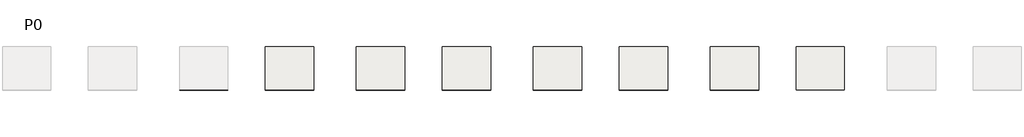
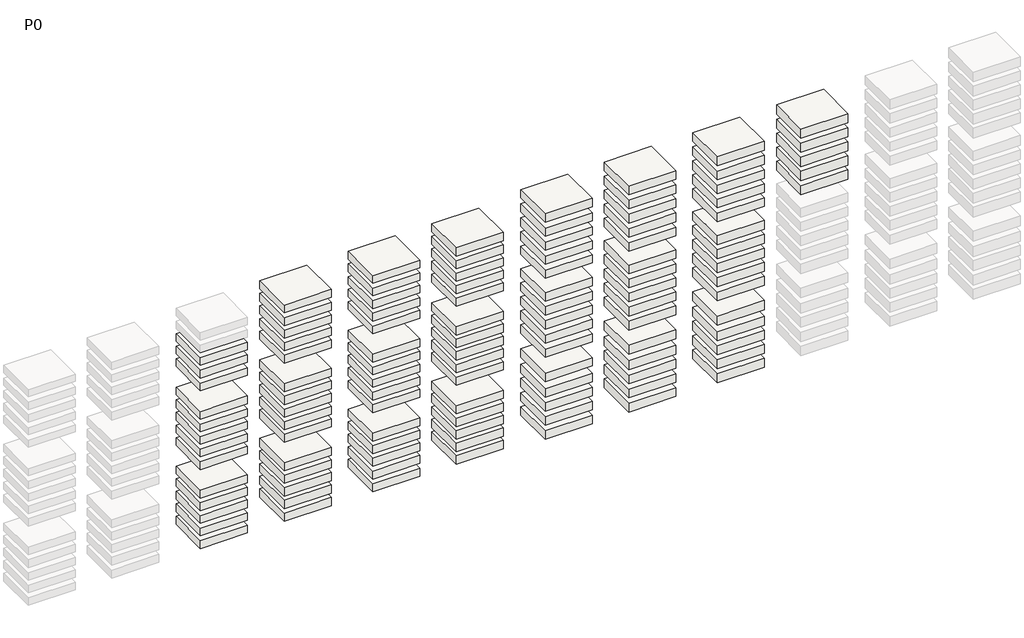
# One storey, part 10 of 11: 108 slabs.
"""IFC4 building model written with IfcOpenShell, lengths in millimetres."""

from ifc_helpers import new_model, si_unit, frame, origin, place, context, project, spatial, polyline, outline, extrude, element, save

model = new_model("IFC4")

# Units and contexts
model_context = context("Model", 3, world=origin())
ifc_project = project(units=[si_unit("LENGTHUNIT", "METRE", prefix="MILLI")], contexts=[model_context])

# Site, building, storey
site = spatial("IfcSite", under=ifc_project)
building = spatial("IfcBuilding", under=site)
storey = spatial("IfcBuildingStorey", under=building, Name="P0", Elevation=0.0)

# Slabs
placement = place(None, origin())
element("IfcSlab", 1, ObjectType="NNEH40 H5", at=placement, inside=storey, context=model_context, shape_type="SweptSolid", body=[
    extrude(outline(polyline([(295510.1564071, 1686.0689128), (295510.1564071, -1013.9310872), (292510.1564071, -1013.9310872), (292510.1564071, 1686.0689128), (295510.1564071, 1686.0689128)])), frame((0.0, 0.0, -9229.5323192), z_axis=(0.0, 0.0, 1.0), x_axis=(1.0, 0.0, 0.0)), (0.0, 0.0, 1.0), 508.0),
])
element("IfcSlab", 2, ObjectType="NNEH40 H5", at=placement, inside=storey, context=model_context, shape_type="SweptSolid", body=[
    extrude(outline(polyline([(295510.1564071, 1686.0689128), (295510.1564071, -1013.9310872), (292510.1564071, -1013.9310872), (292510.1564071, 1686.0689128), (295510.1564071, 1686.0689128)])), frame((0.0, 0.0, -10079.5323192), z_axis=(0.0, 0.0, 1.0), x_axis=(1.0, 0.0, 0.0)), (0.0, 0.0, 1.0), 508.0),
])
element("IfcSlab", 3, ObjectType="NNEH40 H5", at=placement, inside=storey, context=model_context, shape_type="SweptSolid", body=[
    extrude(outline(polyline([(295510.1564071, 1686.0689128), (295510.1564071, -1013.9310872), (292510.1564071, -1013.9310872), (292510.1564071, 1686.0689128), (295510.1564071, 1686.0689128)])), frame((0.0, 0.0, -10929.5324008), z_axis=(0.0, 0.0, 1.0), x_axis=(1.0, 0.0, 0.0)), (0.0, 0.0, 1.0), 508.0),
])
element("IfcSlab", 4, ObjectType="NNEH40 H6", at=placement, inside=storey, context=model_context, shape_type="SweptSolid", body=[
    extrude(outline(polyline([(295510.1564071, 1686.0689128), (295510.1564071, -1013.9310872), (292510.1564071, -1013.9310872), (292510.1564071, 1686.0689128), (295510.1564071, 1686.0689128)])), frame((0.0, 0.0, -12859.5322376), z_axis=(0.0, 0.0, 1.0), x_axis=(1.0, 0.0, 0.0)), (0.0, 0.0, 1.0), 518.0),
])
element("IfcSlab", 5, ObjectType="NNEH40 H6", at=placement, inside=storey, context=model_context, shape_type="SweptSolid", body=[
    extrude(outline(polyline([(295510.1564071, 1686.0689128), (295510.1564071, -1013.9310872), (292510.1564071, -1013.9310872), (292510.1564071, 1686.0689128), (295510.1564071, 1686.0689128)])), frame((0.0, 0.0, -13709.5322376), z_axis=(0.0, 0.0, 1.0), x_axis=(1.0, 0.0, 0.0)), (0.0, 0.0, 1.0), 518.0),
])
element("IfcSlab", 6, ObjectType="NNEH40 H6", at=placement, inside=storey, context=model_context, shape_type="SweptSolid", body=[
    extrude(outline(polyline([(295510.1564071, 1686.0689128), (295510.1564071, -1013.9310872), (292510.1564071, -1013.9310872), (292510.1564071, 1686.0689128), (295510.1564071, 1686.0689128)])), frame((0.0, 0.0, -14559.5322376), z_axis=(0.0, 0.0, 1.0), x_axis=(1.0, 0.0, 0.0)), (0.0, 0.0, 1.0), 518.0),
])
element("IfcSlab", 7, ObjectType="NNEH40 H6", at=placement, inside=storey, context=model_context, shape_type="SweptSolid", body=[
    extrude(outline(polyline([(295510.1564071, 1686.0689128), (295510.1564071, -1013.9310872), (292510.1564071, -1013.9310872), (292510.1564071, 1686.0689128), (295510.1564071, 1686.0689128)])), frame((0.0, 0.0, -15409.5322376), z_axis=(0.0, 0.0, 1.0), x_axis=(1.0, 0.0, 0.0)), (0.0, 0.0, 1.0), 518.0),
])
element("IfcSlab", 8, ObjectType="NNEH40 H6", at=placement, inside=storey, context=model_context, shape_type="SweptSolid", body=[
    extrude(outline(polyline([(295510.1564071, 1686.0689128), (295510.1564071, -1013.9310872), (292510.1564071, -1013.9310872), (292510.1564071, 1686.0689128), (295510.1564071, 1686.0689128)])), frame((0.0, 0.0, -16259.5322376), z_axis=(0.0, 0.0, 1.0), x_axis=(1.0, 0.0, 0.0)), (0.0, 0.0, 1.0), 518.0),
])
element("IfcSlab", 9, ObjectType="NNEH40 H7", at=placement, inside=storey, context=model_context, shape_type="SweptSolid", body=[
    extrude(outline(polyline([(295510.1564071, 1686.0689128), (295510.1564071, -1013.9310872), (292510.1564071, -1013.9310872), (292510.1564071, 1686.0689128), (295510.1564071, 1686.0689128)])), frame((0.0, 0.0, -18189.5323192), z_axis=(0.0, 0.0, 1.0), x_axis=(1.0, 0.0, 0.0)), (0.0, 0.0, 1.0), 528.0),
])
element("IfcSlab", 10, ObjectType="NNEH40 H7", at=placement, inside=storey, context=model_context, shape_type="SweptSolid", body=[
    extrude(outline(polyline([(295510.1564071, 1686.0689128), (295510.1564071, -1013.9310872), (292510.1564071, -1013.9310872), (292510.1564071, 1686.0689128), (295510.1564071, 1686.0689128)])), frame((0.0, 0.0, -19039.5323192), z_axis=(0.0, 0.0, 1.0), x_axis=(1.0, 0.0, 0.0)), (0.0, 0.0, 1.0), 528.0),
])
element("IfcSlab", 11, ObjectType="NNEH40 H7", at=placement, inside=storey, context=model_context, shape_type="SweptSolid", body=[
    extrude(outline(polyline([(295510.1564071, 1686.0689128), (295510.1564071, -1013.9310872), (292510.1564071, -1013.9310872), (292510.1564071, 1686.0689128), (295510.1564071, 1686.0689128)])), frame((0.0, 0.0, -19889.5323192), z_axis=(0.0, 0.0, 1.0), x_axis=(1.0, 0.0, 0.0)), (0.0, 0.0, 1.0), 528.0),
])
element("IfcSlab", 12, ObjectType="NNEH40 H7", at=placement, inside=storey, context=model_context, shape_type="SweptSolid", body=[
    extrude(outline(polyline([(295510.1564071, 1686.0689128), (295510.1564071, -1013.9310872), (292510.1564071, -1013.9310872), (292510.1564071, 1686.0689128), (295510.1564071, 1686.0689128)])), frame((0.0, 0.0, -20739.5323192), z_axis=(0.0, 0.0, 1.0), x_axis=(1.0, 0.0, 0.0)), (0.0, 0.0, 1.0), 528.0),
])
element("IfcSlab", 13, ObjectType="NNEH40 H7", at=placement, inside=storey, context=model_context, shape_type="SweptSolid", body=[
    extrude(outline(polyline([(295510.1564071, 1686.0689128), (295510.1564071, -1013.9310872), (292510.1564071, -1013.9310872), (292510.1564071, 1686.0689128), (295510.1564071, 1686.0689128)])), frame((0.0, 0.0, -21589.5323192), z_axis=(0.0, 0.0, 1.0), x_axis=(1.0, 0.0, 0.0)), (0.0, 0.0, 1.0), 528.0),
])
element("IfcSlab", 14, ObjectType="NNEH40 H8", at=placement, inside=storey, context=model_context, shape_type="SweptSolid", body=[
    extrude(outline(polyline([(300850.1564071, 1686.0689128), (300850.1564071, -1013.9310872), (297850.1564071, -1013.9310872), (297850.1564071, 1686.0689128), (300850.1564071, 1686.0689128)])), frame((0.0, 0.0, -7559.5323192), z_axis=(0.0, 0.0, 1.0), x_axis=(1.0, 0.0, 0.0)), (0.0, 0.0, 1.0), 538.0),
])
element("IfcSlab", 15, ObjectType="NNEH40 H8", at=placement, inside=storey, context=model_context, shape_type="SweptSolid", body=[
    extrude(outline(polyline([(300850.1564071, 1686.0689128), (300850.1564071, -1013.9310872), (297850.1564071, -1013.9310872), (297850.1564071, 1686.0689128), (300850.1564071, 1686.0689128)])), frame((0.0, 0.0, -8409.5323192), z_axis=(0.0, 0.0, 1.0), x_axis=(1.0, 0.0, 0.0)), (0.0, 0.0, 1.0), 538.0),
])
element("IfcSlab", 16, ObjectType="NNEH40 H8", at=placement, inside=storey, context=model_context, shape_type="SweptSolid", body=[
    extrude(outline(polyline([(300850.1564071, 1686.0689128), (300850.1564071, -1013.9310872), (297850.1564071, -1013.9310872), (297850.1564071, 1686.0689128), (300850.1564071, 1686.0689128)])), frame((0.0, 0.0, -9259.5323192), z_axis=(0.0, 0.0, 1.0), x_axis=(1.0, 0.0, 0.0)), (0.0, 0.0, 1.0), 538.0),
])
element("IfcSlab", 17, ObjectType="NNEH40 H8", at=placement, inside=storey, context=model_context, shape_type="SweptSolid", body=[
    extrude(outline(polyline([(300850.1564071, 1686.0689128), (300850.1564071, -1013.9310872), (297850.1564071, -1013.9310872), (297850.1564071, 1686.0689128), (300850.1564071, 1686.0689128)])), frame((0.0, 0.0, -10109.5323192), z_axis=(0.0, 0.0, 1.0), x_axis=(1.0, 0.0, 0.0)), (0.0, 0.0, 1.0), 538.0),
])
element("IfcSlab", 18, ObjectType="NNEH40 H8", at=placement, inside=storey, context=model_context, shape_type="SweptSolid", body=[
    extrude(outline(polyline([(300850.1564071, 1686.0689128), (300850.1564071, -1013.9310872), (297850.1564071, -1013.9310872), (297850.1564071, 1686.0689128), (300850.1564071, 1686.0689128)])), frame((0.0, 0.0, -10959.5324008), z_axis=(0.0, 0.0, 1.0), x_axis=(1.0, 0.0, 0.0)), (0.0, 0.0, 1.0), 538.0),
])
element("IfcSlab", 19, ObjectType="NNEH40 H9", at=placement, inside=storey, context=model_context, shape_type="SweptSolid", body=[
    extrude(outline(polyline([(300850.1564071, 1686.0689128), (300850.1564071, -1013.9310872), (297850.1564071, -1013.9310872), (297850.1564071, 1686.0689128), (300850.1564071, 1686.0689128)])), frame((0.0, 0.0, -12889.5322376), z_axis=(0.0, 0.0, 1.0), x_axis=(1.0, 0.0, 0.0)), (0.0, 0.0, 1.0), 548.0),
])
element("IfcSlab", 20, ObjectType="NNEH40 H9", at=placement, inside=storey, context=model_context, shape_type="SweptSolid", body=[
    extrude(outline(polyline([(300850.1564071, 1686.0689128), (300850.1564071, -1013.9310872), (297850.1564071, -1013.9310872), (297850.1564071, 1686.0689128), (300850.1564071, 1686.0689128)])), frame((0.0, 0.0, -13739.5322376), z_axis=(0.0, 0.0, 1.0), x_axis=(1.0, 0.0, 0.0)), (0.0, 0.0, 1.0), 548.0),
])
element("IfcSlab", 21, ObjectType="NNEH40 H9", at=placement, inside=storey, context=model_context, shape_type="SweptSolid", body=[
    extrude(outline(polyline([(300850.1564071, 1686.0689128), (300850.1564071, -1013.9310872), (297850.1564071, -1013.9310872), (297850.1564071, 1686.0689128), (300850.1564071, 1686.0689128)])), frame((0.0, 0.0, -14589.5322376), z_axis=(0.0, 0.0, 1.0), x_axis=(1.0, 0.0, 0.0)), (0.0, 0.0, 1.0), 548.0),
])
element("IfcSlab", 22, ObjectType="NNEH40 H9", at=placement, inside=storey, context=model_context, shape_type="SweptSolid", body=[
    extrude(outline(polyline([(300850.1564071, 1686.0689128), (300850.1564071, -1013.9310872), (297850.1564071, -1013.9310872), (297850.1564071, 1686.0689128), (300850.1564071, 1686.0689128)])), frame((0.0, 0.0, -15439.5322376), z_axis=(0.0, 0.0, 1.0), x_axis=(1.0, 0.0, 0.0)), (0.0, 0.0, 1.0), 548.0),
])
element("IfcSlab", 23, ObjectType="NNEH40 H9", at=placement, inside=storey, context=model_context, shape_type="SweptSolid", body=[
    extrude(outline(polyline([(300850.1564071, 1686.0689128), (300850.1564071, -1013.9310872), (297850.1564071, -1013.9310872), (297850.1564071, 1686.0689128), (300850.1564071, 1686.0689128)])), frame((0.0, 0.0, -16289.5322376), z_axis=(0.0, 0.0, 1.0), x_axis=(1.0, 0.0, 0.0)), (0.0, 0.0, 1.0), 548.0),
])
element("IfcSlab", 24, ObjectType="NNEH40 H10", at=placement, inside=storey, context=model_context, shape_type="SweptSolid", body=[
    extrude(outline(polyline([(300850.1564071, 1686.0689128), (300850.1564071, -1013.9310872), (297850.1564071, -1013.9310872), (297850.1564071, 1686.0689128), (300850.1564071, 1686.0689128)])), frame((0.0, 0.0, -18219.5323192), z_axis=(0.0, 0.0, 1.0), x_axis=(1.0, 0.0, 0.0)), (0.0, 0.0, 1.0), 558.0),
])
element("IfcSlab", 25, ObjectType="NNEH40 H10", at=placement, inside=storey, context=model_context, shape_type="SweptSolid", body=[
    extrude(outline(polyline([(300850.1564071, 1686.0689128), (300850.1564071, -1013.9310872), (297850.1564071, -1013.9310872), (297850.1564071, 1686.0689128), (300850.1564071, 1686.0689128)])), frame((0.0, 0.0, -19069.5323192), z_axis=(0.0, 0.0, 1.0), x_axis=(1.0, 0.0, 0.0)), (0.0, 0.0, 1.0), 558.0),
])
element("IfcSlab", 26, ObjectType="NNEH40 H10", at=placement, inside=storey, context=model_context, shape_type="SweptSolid", body=[
    extrude(outline(polyline([(300850.1564071, 1686.0689128), (300850.1564071, -1013.9310872), (297850.1564071, -1013.9310872), (297850.1564071, 1686.0689128), (300850.1564071, 1686.0689128)])), frame((0.0, 0.0, -19919.5323192), z_axis=(0.0, 0.0, 1.0), x_axis=(1.0, 0.0, 0.0)), (0.0, 0.0, 1.0), 558.0),
])
element("IfcSlab", 27, ObjectType="NNEH40 H10", at=placement, inside=storey, context=model_context, shape_type="SweptSolid", body=[
    extrude(outline(polyline([(300850.1564071, 1686.0689128), (300850.1564071, -1013.9310872), (297850.1564071, -1013.9310872), (297850.1564071, 1686.0689128), (300850.1564071, 1686.0689128)])), frame((0.0, 0.0, -20769.5323192), z_axis=(0.0, 0.0, 1.0), x_axis=(1.0, 0.0, 0.0)), (0.0, 0.0, 1.0), 558.0),
])
element("IfcSlab", 28, ObjectType="NNEH40 H10", at=placement, inside=storey, context=model_context, shape_type="SweptSolid", body=[
    extrude(outline(polyline([(300850.1564071, 1686.0689128), (300850.1564071, -1013.9310872), (297850.1564071, -1013.9310872), (297850.1564071, 1686.0689128), (300850.1564071, 1686.0689128)])), frame((0.0, 0.0, -21619.5323192), z_axis=(0.0, 0.0, 1.0), x_axis=(1.0, 0.0, 0.0)), (0.0, 0.0, 1.0), 558.0),
])
element("IfcSlab", 29, ObjectType="NNEH41 H5", at=placement, inside=storey, context=model_context, shape_type="SweptSolid", body=[
    extrude(outline(polyline([(306510.1564071, 1686.0689128), (306510.1564071, -1013.9310872), (303510.1564071, -1013.9310872), (303510.1564071, 1686.0689128), (306510.1564071, 1686.0689128)])), frame((0.0, 0.0, -7539.5324008), z_axis=(0.0, 0.0, 1.0), x_axis=(1.0, 0.0, 0.0)), (0.0, 0.0, 1.0), 518.0),
])
element("IfcSlab", 30, ObjectType="NNEH41 H5", at=placement, inside=storey, context=model_context, shape_type="SweptSolid", body=[
    extrude(outline(polyline([(306510.1564071, 1686.0689128), (306510.1564071, -1013.9310872), (303510.1564071, -1013.9310872), (303510.1564071, 1686.0689128), (306510.1564071, 1686.0689128)])), frame((0.0, 0.0, -8389.5323192), z_axis=(0.0, 0.0, 1.0), x_axis=(1.0, 0.0, 0.0)), (0.0, 0.0, 1.0), 518.0),
])
element("IfcSlab", 31, ObjectType="NNEH41 H5", at=placement, inside=storey, context=model_context, shape_type="SweptSolid", body=[
    extrude(outline(polyline([(306510.1564071, 1686.0689128), (306510.1564071, -1013.9310872), (303510.1564071, -1013.9310872), (303510.1564071, 1686.0689128), (306510.1564071, 1686.0689128)])), frame((0.0, 0.0, -9239.5323192), z_axis=(0.0, 0.0, 1.0), x_axis=(1.0, 0.0, 0.0)), (0.0, 0.0, 1.0), 518.0),
])
element("IfcSlab", 32, ObjectType="NNEH41 H5", at=placement, inside=storey, context=model_context, shape_type="SweptSolid", body=[
    extrude(outline(polyline([(306510.1564071, 1686.0689128), (306510.1564071, -1013.9310872), (303510.1564071, -1013.9310872), (303510.1564071, 1686.0689128), (306510.1564071, 1686.0689128)])), frame((0.0, 0.0, -10089.5323192), z_axis=(0.0, 0.0, 1.0), x_axis=(1.0, 0.0, 0.0)), (0.0, 0.0, 1.0), 518.0),
])
element("IfcSlab", 33, ObjectType="NNEH41 H5", at=placement, inside=storey, context=model_context, shape_type="SweptSolid", body=[
    extrude(outline(polyline([(306510.1564071, 1686.0689128), (306510.1564071, -1013.9310872), (303510.1564071, -1013.9310872), (303510.1564071, 1686.0689128), (306510.1564071, 1686.0689128)])), frame((0.0, 0.0, -10939.5324008), z_axis=(0.0, 0.0, 1.0), x_axis=(1.0, 0.0, 0.0)), (0.0, 0.0, 1.0), 518.0),
])
element("IfcSlab", 34, ObjectType="NNEH41 H6", at=placement, inside=storey, context=model_context, shape_type="SweptSolid", body=[
    extrude(outline(polyline([(306510.1564071, 1686.0689128), (306510.1564071, -1013.9310872), (303510.1564071, -1013.9310872), (303510.1564071, 1686.0689128), (306510.1564071, 1686.0689128)])), frame((0.0, 0.0, -12869.5322376), z_axis=(0.0, 0.0, 1.0), x_axis=(1.0, 0.0, 0.0)), (0.0, 0.0, 1.0), 528.0),
])
element("IfcSlab", 35, ObjectType="NNEH41 H6", at=placement, inside=storey, context=model_context, shape_type="SweptSolid", body=[
    extrude(outline(polyline([(306510.1564071, 1686.0689128), (306510.1564071, -1013.9310872), (303510.1564071, -1013.9310872), (303510.1564071, 1686.0689128), (306510.1564071, 1686.0689128)])), frame((0.0, 0.0, -13719.5322376), z_axis=(0.0, 0.0, 1.0), x_axis=(1.0, 0.0, 0.0)), (0.0, 0.0, 1.0), 528.0),
])
element("IfcSlab", 36, ObjectType="NNEH41 H6", at=placement, inside=storey, context=model_context, shape_type="SweptSolid", body=[
    extrude(outline(polyline([(306510.1564071, 1686.0689128), (306510.1564071, -1013.9310872), (303510.1564071, -1013.9310872), (303510.1564071, 1686.0689128), (306510.1564071, 1686.0689128)])), frame((0.0, 0.0, -14569.5322376), z_axis=(0.0, 0.0, 1.0), x_axis=(1.0, 0.0, 0.0)), (0.0, 0.0, 1.0), 528.0),
])
element("IfcSlab", 37, ObjectType="NNEH41 H6", at=placement, inside=storey, context=model_context, shape_type="SweptSolid", body=[
    extrude(outline(polyline([(306510.1564071, 1686.0689128), (306510.1564071, -1013.9310872), (303510.1564071, -1013.9310872), (303510.1564071, 1686.0689128), (306510.1564071, 1686.0689128)])), frame((0.0, 0.0, -15419.5322376), z_axis=(0.0, 0.0, 1.0), x_axis=(1.0, 0.0, 0.0)), (0.0, 0.0, 1.0), 528.0),
])
element("IfcSlab", 38, ObjectType="NNEH41 H6", at=placement, inside=storey, context=model_context, shape_type="SweptSolid", body=[
    extrude(outline(polyline([(306510.1564071, 1686.0689128), (306510.1564071, -1013.9310872), (303510.1564071, -1013.9310872), (303510.1564071, 1686.0689128), (306510.1564071, 1686.0689128)])), frame((0.0, 0.0, -16269.5322376), z_axis=(0.0, 0.0, 1.0), x_axis=(1.0, 0.0, 0.0)), (0.0, 0.0, 1.0), 528.0),
])
element("IfcSlab", 39, ObjectType="NNEH41 H7", at=placement, inside=storey, context=model_context, shape_type="SweptSolid", body=[
    extrude(outline(polyline([(306510.1564071, 1686.0689128), (306510.1564071, -1013.9310872), (303510.1564071, -1013.9310872), (303510.1564071, 1686.0689128), (306510.1564071, 1686.0689128)])), frame((0.0, 0.0, -18199.5323192), z_axis=(0.0, 0.0, 1.0), x_axis=(1.0, 0.0, 0.0)), (0.0, 0.0, 1.0), 538.0),
])
element("IfcSlab", 40, ObjectType="NNEH41 H7", at=placement, inside=storey, context=model_context, shape_type="SweptSolid", body=[
    extrude(outline(polyline([(306510.1564071, 1686.0689128), (306510.1564071, -1013.9310872), (303510.1564071, -1013.9310872), (303510.1564071, 1686.0689128), (306510.1564071, 1686.0689128)])), frame((0.0, 0.0, -19049.5323192), z_axis=(0.0, 0.0, 1.0), x_axis=(1.0, 0.0, 0.0)), (0.0, 0.0, 1.0), 538.0),
])
element("IfcSlab", 41, ObjectType="NNEH41 H7", at=placement, inside=storey, context=model_context, shape_type="SweptSolid", body=[
    extrude(outline(polyline([(306510.1564071, 1686.0689128), (306510.1564071, -1013.9310872), (303510.1564071, -1013.9310872), (303510.1564071, 1686.0689128), (306510.1564071, 1686.0689128)])), frame((0.0, 0.0, -19899.5323192), z_axis=(0.0, 0.0, 1.0), x_axis=(1.0, 0.0, 0.0)), (0.0, 0.0, 1.0), 538.0),
])
element("IfcSlab", 42, ObjectType="NNEH41 H7", at=placement, inside=storey, context=model_context, shape_type="SweptSolid", body=[
    extrude(outline(polyline([(306510.1564071, 1686.0689128), (306510.1564071, -1013.9310872), (303510.1564071, -1013.9310872), (303510.1564071, 1686.0689128), (306510.1564071, 1686.0689128)])), frame((0.0, 0.0, -20749.5323192), z_axis=(0.0, 0.0, 1.0), x_axis=(1.0, 0.0, 0.0)), (0.0, 0.0, 1.0), 538.0),
])
element("IfcSlab", 43, ObjectType="NNEH41 H7", at=placement, inside=storey, context=model_context, shape_type="SweptSolid", body=[
    extrude(outline(polyline([(306510.1564071, 1686.0689128), (306510.1564071, -1013.9310872), (303510.1564071, -1013.9310872), (303510.1564071, 1686.0689128), (306510.1564071, 1686.0689128)])), frame((0.0, 0.0, -21599.5323192), z_axis=(0.0, 0.0, 1.0), x_axis=(1.0, 0.0, 0.0)), (0.0, 0.0, 1.0), 538.0),
])
element("IfcSlab", 44, ObjectType="NNEH41 H8", at=placement, inside=storey, context=model_context, shape_type="SweptSolid", body=[
    extrude(outline(polyline([(311850.1564071, 1686.0689128), (311850.1564071, -1013.9310872), (308850.1564071, -1013.9310872), (308850.1564071, 1686.0689128), (311850.1564071, 1686.0689128)])), frame((0.0, 0.0, -7569.5323192), z_axis=(0.0, 0.0, 1.0), x_axis=(1.0, 0.0, 0.0)), (0.0, 0.0, 1.0), 548.0),
])
element("IfcSlab", 45, ObjectType="NNEH41 H8", at=placement, inside=storey, context=model_context, shape_type="SweptSolid", body=[
    extrude(outline(polyline([(311850.1564071, 1686.0689128), (311850.1564071, -1013.9310872), (308850.1564071, -1013.9310872), (308850.1564071, 1686.0689128), (311850.1564071, 1686.0689128)])), frame((0.0, 0.0, -8419.5323192), z_axis=(0.0, 0.0, 1.0), x_axis=(1.0, 0.0, 0.0)), (0.0, 0.0, 1.0), 548.0),
])
element("IfcSlab", 46, ObjectType="NNEH41 H8", at=placement, inside=storey, context=model_context, shape_type="SweptSolid", body=[
    extrude(outline(polyline([(311850.1564071, 1686.0689128), (311850.1564071, -1013.9310872), (308850.1564071, -1013.9310872), (308850.1564071, 1686.0689128), (311850.1564071, 1686.0689128)])), frame((0.0, 0.0, -9269.5323192), z_axis=(0.0, 0.0, 1.0), x_axis=(1.0, 0.0, 0.0)), (0.0, 0.0, 1.0), 548.0),
])
element("IfcSlab", 47, ObjectType="NNEH41 H8", at=placement, inside=storey, context=model_context, shape_type="SweptSolid", body=[
    extrude(outline(polyline([(311850.1564071, 1686.0689128), (311850.1564071, -1013.9310872), (308850.1564071, -1013.9310872), (308850.1564071, 1686.0689128), (311850.1564071, 1686.0689128)])), frame((0.0, 0.0, -10119.5323192), z_axis=(0.0, 0.0, 1.0), x_axis=(1.0, 0.0, 0.0)), (0.0, 0.0, 1.0), 548.0),
])
element("IfcSlab", 48, ObjectType="NNEH41 H8", at=placement, inside=storey, context=model_context, shape_type="SweptSolid", body=[
    extrude(outline(polyline([(311850.1564071, 1686.0689128), (311850.1564071, -1013.9310872), (308850.1564071, -1013.9310872), (308850.1564071, 1686.0689128), (311850.1564071, 1686.0689128)])), frame((0.0, 0.0, -10969.5324008), z_axis=(0.0, 0.0, 1.0), x_axis=(1.0, 0.0, 0.0)), (0.0, 0.0, 1.0), 548.0),
])
element("IfcSlab", 49, ObjectType="NNEH41 H9", at=placement, inside=storey, context=model_context, shape_type="SweptSolid", body=[
    extrude(outline(polyline([(311850.1564071, 1686.0689128), (311850.1564071, -1013.9310872), (308850.1564071, -1013.9310872), (308850.1564071, 1686.0689128), (311850.1564071, 1686.0689128)])), frame((0.0, 0.0, -12899.5322376), z_axis=(0.0, 0.0, 1.0), x_axis=(1.0, 0.0, 0.0)), (0.0, 0.0, 1.0), 558.0),
])
element("IfcSlab", 50, ObjectType="NNEH41 H9", at=placement, inside=storey, context=model_context, shape_type="SweptSolid", body=[
    extrude(outline(polyline([(311850.1564071, 1686.0689128), (311850.1564071, -1013.9310872), (308850.1564071, -1013.9310872), (308850.1564071, 1686.0689128), (311850.1564071, 1686.0689128)])), frame((0.0, 0.0, -13749.5322376), z_axis=(0.0, 0.0, 1.0), x_axis=(1.0, 0.0, 0.0)), (0.0, 0.0, 1.0), 558.0),
])
element("IfcSlab", 51, ObjectType="NNEH41 H9", at=placement, inside=storey, context=model_context, shape_type="SweptSolid", body=[
    extrude(outline(polyline([(311850.1564071, 1686.0689128), (311850.1564071, -1013.9310872), (308850.1564071, -1013.9310872), (308850.1564071, 1686.0689128), (311850.1564071, 1686.0689128)])), frame((0.0, 0.0, -14599.5322376), z_axis=(0.0, 0.0, 1.0), x_axis=(1.0, 0.0, 0.0)), (0.0, 0.0, 1.0), 558.0),
])
element("IfcSlab", 52, ObjectType="NNEH41 H9", at=placement, inside=storey, context=model_context, shape_type="SweptSolid", body=[
    extrude(outline(polyline([(311850.1564071, 1686.0689128), (311850.1564071, -1013.9310872), (308850.1564071, -1013.9310872), (308850.1564071, 1686.0689128), (311850.1564071, 1686.0689128)])), frame((0.0, 0.0, -15449.5322376), z_axis=(0.0, 0.0, 1.0), x_axis=(1.0, 0.0, 0.0)), (0.0, 0.0, 1.0), 558.0),
])
element("IfcSlab", 53, ObjectType="NNEH41 H9", at=placement, inside=storey, context=model_context, shape_type="SweptSolid", body=[
    extrude(outline(polyline([(311850.1564071, 1686.0689128), (311850.1564071, -1013.9310872), (308850.1564071, -1013.9310872), (308850.1564071, 1686.0689128), (311850.1564071, 1686.0689128)])), frame((0.0, 0.0, -16299.5322376), z_axis=(0.0, 0.0, 1.0), x_axis=(1.0, 0.0, 0.0)), (0.0, 0.0, 1.0), 558.0),
])
element("IfcSlab", 54, ObjectType="NNEH41 H10", at=placement, inside=storey, context=model_context, shape_type="SweptSolid", body=[
    extrude(outline(polyline([(311850.1564071, 1686.0689128), (311850.1564071, -1013.9310872), (308850.1564071, -1013.9310872), (308850.1564071, 1686.0689128), (311850.1564071, 1686.0689128)])), frame((0.0, 0.0, -18229.5323192), z_axis=(0.0, 0.0, 1.0), x_axis=(1.0, 0.0, 0.0)), (0.0, 0.0, 1.0), 568.0),
])
element("IfcSlab", 55, ObjectType="NNEH41 H10", at=placement, inside=storey, context=model_context, shape_type="SweptSolid", body=[
    extrude(outline(polyline([(311850.1564071, 1686.0689128), (311850.1564071, -1013.9310872), (308850.1564071, -1013.9310872), (308850.1564071, 1686.0689128), (311850.1564071, 1686.0689128)])), frame((0.0, 0.0, -19079.5323192), z_axis=(0.0, 0.0, 1.0), x_axis=(1.0, 0.0, 0.0)), (0.0, 0.0, 1.0), 568.0),
])
element("IfcSlab", 56, ObjectType="NNEH41 H10", at=placement, inside=storey, context=model_context, shape_type="SweptSolid", body=[
    extrude(outline(polyline([(311850.1564071, 1686.0689128), (311850.1564071, -1013.9310872), (308850.1564071, -1013.9310872), (308850.1564071, 1686.0689128), (311850.1564071, 1686.0689128)])), frame((0.0, 0.0, -19929.5323192), z_axis=(0.0, 0.0, 1.0), x_axis=(1.0, 0.0, 0.0)), (0.0, 0.0, 1.0), 568.0),
])
element("IfcSlab", 57, ObjectType="NNEH41 H10", at=placement, inside=storey, context=model_context, shape_type="SweptSolid", body=[
    extrude(outline(polyline([(311850.1564071, 1686.0689128), (311850.1564071, -1013.9310872), (308850.1564071, -1013.9310872), (308850.1564071, 1686.0689128), (311850.1564071, 1686.0689128)])), frame((0.0, 0.0, -20779.5323192), z_axis=(0.0, 0.0, 1.0), x_axis=(1.0, 0.0, 0.0)), (0.0, 0.0, 1.0), 568.0),
])
element("IfcSlab", 58, ObjectType="NNEH41 H10", at=placement, inside=storey, context=model_context, shape_type="SweptSolid", body=[
    extrude(outline(polyline([(311850.1564071, 1686.0689128), (311850.1564071, -1013.9310872), (308850.1564071, -1013.9310872), (308850.1564071, 1686.0689128), (311850.1564071, 1686.0689128)])), frame((0.0, 0.0, -21629.5323192), z_axis=(0.0, 0.0, 1.0), x_axis=(1.0, 0.0, 0.0)), (0.0, 0.0, 1.0), 568.0),
])
element("IfcSlab", 59, ObjectType="NNEH44 H5", at=placement, inside=storey, context=model_context, shape_type="SweptSolid", body=[
    extrude(outline(polyline([(317510.1564071, 1686.0689128), (317510.1564071, -1013.9310872), (314510.1564071, -1013.9310872), (314510.1564071, 1686.0689128), (317510.1564071, 1686.0689128)])), frame((0.0, 0.0, -7259.5323192), z_axis=(0.0, 0.0, 1.0), x_axis=(1.0, 0.0, 0.0)), (0.0, 0.0, 1.0), 548.0),
])
element("IfcSlab", 60, ObjectType="NNEH44 H5", at=placement, inside=storey, context=model_context, shape_type="SweptSolid", body=[
    extrude(outline(polyline([(317510.1564071, 1686.0689128), (317510.1564071, -1013.9310872), (314510.1564071, -1013.9310872), (314510.1564071, 1686.0689128), (317510.1564071, 1686.0689128)])), frame((0.0, 0.0, -8209.5322376), z_axis=(0.0, 0.0, 1.0), x_axis=(1.0, 0.0, 0.0)), (0.0, 0.0, 1.0), 548.0),
])
element("IfcSlab", 61, ObjectType="NNEH44 H5", at=placement, inside=storey, context=model_context, shape_type="SweptSolid", body=[
    extrude(outline(polyline([(317510.1564071, 1686.0689128), (317510.1564071, -1013.9310872), (314510.1564071, -1013.9310872), (314510.1564071, 1686.0689128), (317510.1564071, 1686.0689128)])), frame((0.0, 0.0, -9159.5322376), z_axis=(0.0, 0.0, 1.0), x_axis=(1.0, 0.0, 0.0)), (0.0, 0.0, 1.0), 548.0),
])
element("IfcSlab", 62, ObjectType="NNEH44 H5", at=placement, inside=storey, context=model_context, shape_type="SweptSolid", body=[
    extrude(outline(polyline([(317510.1564071, 1686.0689128), (317510.1564071, -1013.9310872), (314510.1564071, -1013.9310872), (314510.1564071, 1686.0689128), (317510.1564071, 1686.0689128)])), frame((0.0, 0.0, -10109.5322376), z_axis=(0.0, 0.0, 1.0), x_axis=(1.0, 0.0, 0.0)), (0.0, 0.0, 1.0), 548.0),
])
element("IfcSlab", 63, ObjectType="NNEH44 H5", at=placement, inside=storey, context=model_context, shape_type="SweptSolid", body=[
    extrude(outline(polyline([(317510.1564071, 1686.0689128), (317510.1564071, -1013.9310872), (314510.1564071, -1013.9310872), (314510.1564071, 1686.0689128), (317510.1564071, 1686.0689128)])), frame((0.0, 0.0, -11059.5323192), z_axis=(0.0, 0.0, 1.0), x_axis=(1.0, 0.0, 0.0)), (0.0, 0.0, 1.0), 548.0),
])
element("IfcSlab", 64, ObjectType="NNEH44 H6", at=placement, inside=storey, context=model_context, shape_type="SweptSolid", body=[
    extrude(outline(polyline([(317510.1564071, 1686.0689128), (317510.1564071, -1013.9310872), (314510.1564071, -1013.9310872), (314510.1564071, 1686.0689128), (317510.1564071, 1686.0689128)])), frame((0.0, 0.0, -12589.532156), z_axis=(0.0, 0.0, 1.0), x_axis=(1.0, 0.0, 0.0)), (0.0, 0.0, 1.0), 558.0),
])
element("IfcSlab", 65, ObjectType="NNEH44 H6", at=placement, inside=storey, context=model_context, shape_type="SweptSolid", body=[
    extrude(outline(polyline([(317510.1564071, 1686.0689128), (317510.1564071, -1013.9310872), (314510.1564071, -1013.9310872), (314510.1564071, 1686.0689128), (317510.1564071, 1686.0689128)])), frame((0.0, 0.0, -13539.532156), z_axis=(0.0, 0.0, 1.0), x_axis=(1.0, 0.0, 0.0)), (0.0, 0.0, 1.0), 558.0),
])
element("IfcSlab", 66, ObjectType="NNEH44 H6", at=placement, inside=storey, context=model_context, shape_type="SweptSolid", body=[
    extrude(outline(polyline([(317510.1564071, 1686.0689128), (317510.1564071, -1013.9310872), (314510.1564071, -1013.9310872), (314510.1564071, 1686.0689128), (317510.1564071, 1686.0689128)])), frame((0.0, 0.0, -14489.532156), z_axis=(0.0, 0.0, 1.0), x_axis=(1.0, 0.0, 0.0)), (0.0, 0.0, 1.0), 558.0),
])
element("IfcSlab", 67, ObjectType="NNEH44 H6", at=placement, inside=storey, context=model_context, shape_type="SweptSolid", body=[
    extrude(outline(polyline([(317510.1564071, 1686.0689128), (317510.1564071, -1013.9310872), (314510.1564071, -1013.9310872), (314510.1564071, 1686.0689128), (317510.1564071, 1686.0689128)])), frame((0.0, 0.0, -15439.532156), z_axis=(0.0, 0.0, 1.0), x_axis=(1.0, 0.0, 0.0)), (0.0, 0.0, 1.0), 558.0),
])
element("IfcSlab", 68, ObjectType="NNEH44 H6", at=placement, inside=storey, context=model_context, shape_type="SweptSolid", body=[
    extrude(outline(polyline([(317510.1564071, 1686.0689128), (317510.1564071, -1013.9310872), (314510.1564071, -1013.9310872), (314510.1564071, 1686.0689128), (317510.1564071, 1686.0689128)])), frame((0.0, 0.0, -16389.532156), z_axis=(0.0, 0.0, 1.0), x_axis=(1.0, 0.0, 0.0)), (0.0, 0.0, 1.0), 558.0),
])
element("IfcSlab", 69, ObjectType="NNEH44 H7", at=placement, inside=storey, context=model_context, shape_type="SweptSolid", body=[
    extrude(outline(polyline([(317510.1564071, 1686.0689128), (317510.1564071, -1013.9310872), (314510.1564071, -1013.9310872), (314510.1564071, 1686.0689128), (317510.1564071, 1686.0689128)])), frame((0.0, 0.0, -18019.5322376), z_axis=(0.0, 0.0, 1.0), x_axis=(1.0, 0.0, 0.0)), (0.0, 0.0, 1.0), 568.0),
])
element("IfcSlab", 70, ObjectType="NNEH44 H7", at=placement, inside=storey, context=model_context, shape_type="SweptSolid", body=[
    extrude(outline(polyline([(317510.1564071, 1686.0689128), (317510.1564071, -1013.9310872), (314510.1564071, -1013.9310872), (314510.1564071, 1686.0689128), (317510.1564071, 1686.0689128)])), frame((0.0, 0.0, -19069.5322376), z_axis=(0.0, 0.0, 1.0), x_axis=(1.0, 0.0, 0.0)), (0.0, 0.0, 1.0), 568.0),
])
element("IfcSlab", 71, ObjectType="NNEH44 H7", at=placement, inside=storey, context=model_context, shape_type="SweptSolid", body=[
    extrude(outline(polyline([(317510.1564071, 1686.0689128), (317510.1564071, -1013.9310872), (314510.1564071, -1013.9310872), (314510.1564071, 1686.0689128), (317510.1564071, 1686.0689128)])), frame((0.0, 0.0, -20019.5322376), z_axis=(0.0, 0.0, 1.0), x_axis=(1.0, 0.0, 0.0)), (0.0, 0.0, 1.0), 568.0),
])
element("IfcSlab", 72, ObjectType="NNEH44 H7", at=placement, inside=storey, context=model_context, shape_type="SweptSolid", body=[
    extrude(outline(polyline([(317510.1564071, 1686.0689128), (317510.1564071, -1013.9310872), (314510.1564071, -1013.9310872), (314510.1564071, 1686.0689128), (317510.1564071, 1686.0689128)])), frame((0.0, 0.0, -20969.5322376), z_axis=(0.0, 0.0, 1.0), x_axis=(1.0, 0.0, 0.0)), (0.0, 0.0, 1.0), 568.0),
])
element("IfcSlab", 73, ObjectType="NNEH44 H7", at=placement, inside=storey, context=model_context, shape_type="SweptSolid", body=[
    extrude(outline(polyline([(317510.1564071, 1686.0689128), (317510.1564071, -1013.9310872), (314510.1564071, -1013.9310872), (314510.1564071, 1686.0689128), (317510.1564071, 1686.0689128)])), frame((0.0, 0.0, -21919.5322376), z_axis=(0.0, 0.0, 1.0), x_axis=(1.0, 0.0, 0.0)), (0.0, 0.0, 1.0), 568.0),
])
element("IfcSlab", 74, ObjectType="NNEH44 H8", at=placement, inside=storey, context=model_context, shape_type="SweptSolid", body=[
    extrude(outline(polyline([(322850.1564071, 1686.0689128), (322850.1564071, -1013.9310872), (319850.1564071, -1013.9310872), (319850.1564071, 1686.0689128), (322850.1564071, 1686.0689128)])), frame((0.0, 0.0, -7289.5322376), z_axis=(0.0, 0.0, 1.0), x_axis=(1.0, 0.0, 0.0)), (0.0, 0.0, 1.0), 578.0),
])
element("IfcSlab", 75, ObjectType="NNEH44 H8", at=placement, inside=storey, context=model_context, shape_type="SweptSolid", body=[
    extrude(outline(polyline([(322850.1564071, 1686.0689128), (322850.1564071, -1013.9310872), (319850.1564071, -1013.9310872), (319850.1564071, 1686.0689128), (322850.1564071, 1686.0689128)])), frame((0.0, 0.0, -8239.5322376), z_axis=(0.0, 0.0, 1.0), x_axis=(1.0, 0.0, 0.0)), (0.0, 0.0, 1.0), 578.0),
])
element("IfcSlab", 76, ObjectType="NNEH44 H8", at=placement, inside=storey, context=model_context, shape_type="SweptSolid", body=[
    extrude(outline(polyline([(322850.1564071, 1686.0689128), (322850.1564071, -1013.9310872), (319850.1564071, -1013.9310872), (319850.1564071, 1686.0689128), (322850.1564071, 1686.0689128)])), frame((0.0, 0.0, -9189.5322376), z_axis=(0.0, 0.0, 1.0), x_axis=(1.0, 0.0, 0.0)), (0.0, 0.0, 1.0), 578.0),
])
element("IfcSlab", 77, ObjectType="NNEH44 H8", at=placement, inside=storey, context=model_context, shape_type="SweptSolid", body=[
    extrude(outline(polyline([(322850.1564071, 1686.0689128), (322850.1564071, -1013.9310872), (319850.1564071, -1013.9310872), (319850.1564071, 1686.0689128), (322850.1564071, 1686.0689128)])), frame((0.0, 0.0, -10139.5322376), z_axis=(0.0, 0.0, 1.0), x_axis=(1.0, 0.0, 0.0)), (0.0, 0.0, 1.0), 578.0),
])
element("IfcSlab", 78, ObjectType="NNEH44 H8", at=placement, inside=storey, context=model_context, shape_type="SweptSolid", body=[
    extrude(outline(polyline([(322850.1564071, 1686.0689128), (322850.1564071, -1013.9310872), (319850.1564071, -1013.9310872), (319850.1564071, 1686.0689128), (322850.1564071, 1686.0689128)])), frame((0.0, 0.0, -11089.5323192), z_axis=(0.0, 0.0, 1.0), x_axis=(1.0, 0.0, 0.0)), (0.0, 0.0, 1.0), 578.0),
])
element("IfcSlab", 79, ObjectType="NNEH44 H9", at=placement, inside=storey, context=model_context, shape_type="SweptSolid", body=[
    extrude(outline(polyline([(322850.1564071, 1686.0689128), (322850.1564071, -1013.9310872), (319850.1564071, -1013.9310872), (319850.1564071, 1686.0689128), (322850.1564071, 1686.0689128)])), frame((0.0, 0.0, -12619.532156), z_axis=(0.0, 0.0, 1.0), x_axis=(1.0, 0.0, 0.0)), (0.0, 0.0, 1.0), 588.0),
])
element("IfcSlab", 80, ObjectType="NNEH44 H9", at=placement, inside=storey, context=model_context, shape_type="SweptSolid", body=[
    extrude(outline(polyline([(322850.1564071, 1686.0689128), (322850.1564071, -1013.9310872), (319850.1564071, -1013.9310872), (319850.1564071, 1686.0689128), (322850.1564071, 1686.0689128)])), frame((0.0, 0.0, -13569.532156), z_axis=(0.0, 0.0, 1.0), x_axis=(1.0, 0.0, 0.0)), (0.0, 0.0, 1.0), 588.0),
])
element("IfcSlab", 81, ObjectType="NNEH44 H9", at=placement, inside=storey, context=model_context, shape_type="SweptSolid", body=[
    extrude(outline(polyline([(322850.1564071, 1686.0689128), (322850.1564071, -1013.9310872), (319850.1564071, -1013.9310872), (319850.1564071, 1686.0689128), (322850.1564071, 1686.0689128)])), frame((0.0, 0.0, -14519.532156), z_axis=(0.0, 0.0, 1.0), x_axis=(1.0, 0.0, 0.0)), (0.0, 0.0, 1.0), 588.0),
])
element("IfcSlab", 82, ObjectType="NNEH44 H9", at=placement, inside=storey, context=model_context, shape_type="SweptSolid", body=[
    extrude(outline(polyline([(322850.1564071, 1686.0689128), (322850.1564071, -1013.9310872), (319850.1564071, -1013.9310872), (319850.1564071, 1686.0689128), (322850.1564071, 1686.0689128)])), frame((0.0, 0.0, -15469.532156), z_axis=(0.0, 0.0, 1.0), x_axis=(1.0, 0.0, 0.0)), (0.0, 0.0, 1.0), 588.0),
])
element("IfcSlab", 83, ObjectType="NNEH44 H9", at=placement, inside=storey, context=model_context, shape_type="SweptSolid", body=[
    extrude(outline(polyline([(322850.1564071, 1686.0689128), (322850.1564071, -1013.9310872), (319850.1564071, -1013.9310872), (319850.1564071, 1686.0689128), (322850.1564071, 1686.0689128)])), frame((0.0, 0.0, -16419.532156), z_axis=(0.0, 0.0, 1.0), x_axis=(1.0, 0.0, 0.0)), (0.0, 0.0, 1.0), 588.0),
])
element("IfcSlab", 84, ObjectType="NNEH44 H10", at=placement, inside=storey, context=model_context, shape_type="SweptSolid", body=[
    extrude(outline(polyline([(322850.1564071, 1686.0689128), (322850.1564071, -1013.9310872), (319850.1564071, -1013.9310872), (319850.1564071, 1686.0689128), (322850.1564071, 1686.0689128)])), frame((0.0, 0.0, -18049.5322376), z_axis=(0.0, 0.0, 1.0), x_axis=(1.0, 0.0, 0.0)), (0.0, 0.0, 1.0), 598.0),
])
element("IfcSlab", 85, ObjectType="NNEH44 H10", at=placement, inside=storey, context=model_context, shape_type="SweptSolid", body=[
    extrude(outline(polyline([(322850.1564071, 1686.0689128), (322850.1564071, -1013.9310872), (319850.1564071, -1013.9310872), (319850.1564071, 1686.0689128), (322850.1564071, 1686.0689128)])), frame((0.0, 0.0, -19099.5322376), z_axis=(0.0, 0.0, 1.0), x_axis=(1.0, 0.0, 0.0)), (0.0, 0.0, 1.0), 598.0),
])
element("IfcSlab", 86, ObjectType="NNEH44 H10", at=placement, inside=storey, context=model_context, shape_type="SweptSolid", body=[
    extrude(outline(polyline([(322850.1564071, 1686.0689128), (322850.1564071, -1013.9310872), (319850.1564071, -1013.9310872), (319850.1564071, 1686.0689128), (322850.1564071, 1686.0689128)])), frame((0.0, 0.0, -20049.5322376), z_axis=(0.0, 0.0, 1.0), x_axis=(1.0, 0.0, 0.0)), (0.0, 0.0, 1.0), 598.0),
])
element("IfcSlab", 87, ObjectType="NNEH44 H10", at=placement, inside=storey, context=model_context, shape_type="SweptSolid", body=[
    extrude(outline(polyline([(322850.1564071, 1686.0689128), (322850.1564071, -1013.9310872), (319850.1564071, -1013.9310872), (319850.1564071, 1686.0689128), (322850.1564071, 1686.0689128)])), frame((0.0, 0.0, -20999.5322376), z_axis=(0.0, 0.0, 1.0), x_axis=(1.0, 0.0, 0.0)), (0.0, 0.0, 1.0), 598.0),
])
element("IfcSlab", 88, ObjectType="NNEH44 H10", at=placement, inside=storey, context=model_context, shape_type="SweptSolid", body=[
    extrude(outline(polyline([(322850.1564071, 1686.0689128), (322850.1564071, -1013.9310872), (319850.1564071, -1013.9310872), (319850.1564071, 1686.0689128), (322850.1564071, 1686.0689128)])), frame((0.0, 0.0, -21949.5322376), z_axis=(0.0, 0.0, 1.0), x_axis=(1.0, 0.0, 0.0)), (0.0, 0.0, 1.0), 598.0),
])
element("IfcSlab", 89, ObjectType="NNEH48 H5", at=placement, inside=storey, context=model_context, shape_type="SweptSolid", body=[
    extrude(outline(polyline([(328510.1564071, 1686.0689128), (328510.1564071, -1013.9310872), (325510.1564071, -1013.9310872), (325510.1564071, 1686.0689128), (328510.1564071, 1686.0689128)])), frame((0.0, 0.0, -7299.5323192), z_axis=(0.0, 0.0, 1.0), x_axis=(1.0, 0.0, 0.0)), (0.0, 0.0, 1.0), 588.0),
])
element("IfcSlab", 90, ObjectType="NNEH48 H5", at=placement, inside=storey, context=model_context, shape_type="SweptSolid", body=[
    extrude(outline(polyline([(328510.1564071, 1686.0689128), (328510.1564071, -1013.9310872), (325510.1564071, -1013.9310872), (325510.1564071, 1686.0689128), (328510.1564071, 1686.0689128)])), frame((0.0, 0.0, -8249.5322376), z_axis=(0.0, 0.0, 1.0), x_axis=(1.0, 0.0, 0.0)), (0.0, 0.0, 1.0), 588.0),
])
element("IfcSlab", 91, ObjectType="NNEH48 H5", at=placement, inside=storey, context=model_context, shape_type="SweptSolid", body=[
    extrude(outline(polyline([(328510.1564071, 1686.0689128), (328510.1564071, -1013.9310872), (325510.1564071, -1013.9310872), (325510.1564071, 1686.0689128), (328510.1564071, 1686.0689128)])), frame((0.0, 0.0, -9199.5322376), z_axis=(0.0, 0.0, 1.0), x_axis=(1.0, 0.0, 0.0)), (0.0, 0.0, 1.0), 588.0),
])
element("IfcSlab", 92, ObjectType="NNEH48 H5", at=placement, inside=storey, context=model_context, shape_type="SweptSolid", body=[
    extrude(outline(polyline([(328510.1564071, 1686.0689128), (328510.1564071, -1013.9310872), (325510.1564071, -1013.9310872), (325510.1564071, 1686.0689128), (328510.1564071, 1686.0689128)])), frame((0.0, 0.0, -10149.5322376), z_axis=(0.0, 0.0, 1.0), x_axis=(1.0, 0.0, 0.0)), (0.0, 0.0, 1.0), 588.0),
])
element("IfcSlab", 93, ObjectType="NNEH48 H5", at=placement, inside=storey, context=model_context, shape_type="SweptSolid", body=[
    extrude(outline(polyline([(328510.1564071, 1686.0689128), (328510.1564071, -1013.9310872), (325510.1564071, -1013.9310872), (325510.1564071, 1686.0689128), (328510.1564071, 1686.0689128)])), frame((0.0, 0.0, -11099.5323192), z_axis=(0.0, 0.0, 1.0), x_axis=(1.0, 0.0, 0.0)), (0.0, 0.0, 1.0), 588.0),
])
element("IfcSlab", 94, ObjectType="NNEH48 H6", at=placement, inside=storey, context=model_context, shape_type="SweptSolid", body=[
    extrude(outline(polyline([(328510.1564071, 1686.0689128), (328510.1564071, -1013.9310872), (325510.1564071, -1013.9310872), (325510.1564071, 1686.0689128), (328510.1564071, 1686.0689128)])), frame((0.0, 0.0, -12629.532156), z_axis=(0.0, 0.0, 1.0), x_axis=(1.0, 0.0, 0.0)), (0.0, 0.0, 1.0), 598.0),
])
element("IfcSlab", 95, ObjectType="NNEH48 H6", at=placement, inside=storey, context=model_context, shape_type="SweptSolid", body=[
    extrude(outline(polyline([(328510.1564071, 1686.0689128), (328510.1564071, -1013.9310872), (325510.1564071, -1013.9310872), (325510.1564071, 1686.0689128), (328510.1564071, 1686.0689128)])), frame((0.0, 0.0, -13579.532156), z_axis=(0.0, 0.0, 1.0), x_axis=(1.0, 0.0, 0.0)), (0.0, 0.0, 1.0), 598.0),
])
element("IfcSlab", 96, ObjectType="NNEH48 H6", at=placement, inside=storey, context=model_context, shape_type="SweptSolid", body=[
    extrude(outline(polyline([(328510.1564071, 1686.0689128), (328510.1564071, -1013.9310872), (325510.1564071, -1013.9310872), (325510.1564071, 1686.0689128), (328510.1564071, 1686.0689128)])), frame((0.0, 0.0, -14529.532156), z_axis=(0.0, 0.0, 1.0), x_axis=(1.0, 0.0, 0.0)), (0.0, 0.0, 1.0), 598.0),
])
element("IfcSlab", 97, ObjectType="NNEH48 H6", at=placement, inside=storey, context=model_context, shape_type="SweptSolid", body=[
    extrude(outline(polyline([(328510.1564071, 1686.0689128), (328510.1564071, -1013.9310872), (325510.1564071, -1013.9310872), (325510.1564071, 1686.0689128), (328510.1564071, 1686.0689128)])), frame((0.0, 0.0, -15479.532156), z_axis=(0.0, 0.0, 1.0), x_axis=(1.0, 0.0, 0.0)), (0.0, 0.0, 1.0), 598.0),
])
element("IfcSlab", 98, ObjectType="NNEH48 H6", at=placement, inside=storey, context=model_context, shape_type="SweptSolid", body=[
    extrude(outline(polyline([(328510.1564071, 1686.0689128), (328510.1564071, -1013.9310872), (325510.1564071, -1013.9310872), (325510.1564071, 1686.0689128), (328510.1564071, 1686.0689128)])), frame((0.0, 0.0, -16429.532156), z_axis=(0.0, 0.0, 1.0), x_axis=(1.0, 0.0, 0.0)), (0.0, 0.0, 1.0), 598.0),
])
element("IfcSlab", 99, ObjectType="NNEH48 H7", at=placement, inside=storey, context=model_context, shape_type="SweptSolid", body=[
    extrude(outline(polyline([(328510.1564071, 1686.0689128), (328510.1564071, -1013.9310872), (325510.1564071, -1013.9310872), (325510.1564071, 1686.0689128), (328510.1564071, 1686.0689128)])), frame((0.0, 0.0, -18059.5322376), z_axis=(0.0, 0.0, 1.0), x_axis=(1.0, 0.0, 0.0)), (0.0, 0.0, 1.0), 608.0),
])
element("IfcSlab", 100, ObjectType="NNEH48 H7", at=placement, inside=storey, context=model_context, shape_type="SweptSolid", body=[
    extrude(outline(polyline([(328510.1564071, 1686.0689128), (328510.1564071, -1013.9310872), (325510.1564071, -1013.9310872), (325510.1564071, 1686.0689128), (328510.1564071, 1686.0689128)])), frame((0.0, 0.0, -19109.5322376), z_axis=(0.0, 0.0, 1.0), x_axis=(1.0, 0.0, 0.0)), (0.0, 0.0, 1.0), 608.0),
])
element("IfcSlab", 101, ObjectType="NNEH48 H7", at=placement, inside=storey, context=model_context, shape_type="SweptSolid", body=[
    extrude(outline(polyline([(328510.1564071, 1686.0689128), (328510.1564071, -1013.9310872), (325510.1564071, -1013.9310872), (325510.1564071, 1686.0689128), (328510.1564071, 1686.0689128)])), frame((0.0, 0.0, -20059.5322376), z_axis=(0.0, 0.0, 1.0), x_axis=(1.0, 0.0, 0.0)), (0.0, 0.0, 1.0), 608.0),
])
element("IfcSlab", 102, ObjectType="NNEH48 H7", at=placement, inside=storey, context=model_context, shape_type="SweptSolid", body=[
    extrude(outline(polyline([(328510.1564071, 1686.0689128), (328510.1564071, -1013.9310872), (325510.1564071, -1013.9310872), (325510.1564071, 1686.0689128), (328510.1564071, 1686.0689128)])), frame((0.0, 0.0, -21009.5322376), z_axis=(0.0, 0.0, 1.0), x_axis=(1.0, 0.0, 0.0)), (0.0, 0.0, 1.0), 608.0),
])
element("IfcSlab", 103, ObjectType="NNEH48 H7", at=placement, inside=storey, context=model_context, shape_type="SweptSolid", body=[
    extrude(outline(polyline([(328510.1564071, 1686.0689128), (328510.1564071, -1013.9310872), (325510.1564071, -1013.9310872), (325510.1564071, 1686.0689128), (328510.1564071, 1686.0689128)])), frame((0.0, 0.0, -21959.5322376), z_axis=(0.0, 0.0, 1.0), x_axis=(1.0, 0.0, 0.0)), (0.0, 0.0, 1.0), 608.0),
])
element("IfcSlab", 104, ObjectType="NNEH48 H8", at=placement, inside=storey, context=model_context, shape_type="SweptSolid", body=[
    extrude(outline(polyline([(333850.1564071, 1686.0689128), (333850.1564071, -1013.9310872), (330850.1564071, -1013.9310872), (330850.1564071, 1686.0689128), (333850.1564071, 1686.0689128)])), frame((0.0, 0.0, -7329.5322376), z_axis=(0.0, 0.0, 1.0), x_axis=(1.0, 0.0, 0.0)), (0.0, 0.0, 1.0), 618.0),
])
element("IfcSlab", 105, ObjectType="NNEH48 H8", at=placement, inside=storey, context=model_context, shape_type="SweptSolid", body=[
    extrude(outline(polyline([(333850.1564071, 1686.0689128), (333850.1564071, -1013.9310872), (330850.1564071, -1013.9310872), (330850.1564071, 1686.0689128), (333850.1564071, 1686.0689128)])), frame((0.0, 0.0, -8279.5322376), z_axis=(0.0, 0.0, 1.0), x_axis=(1.0, 0.0, 0.0)), (0.0, 0.0, 1.0), 618.0),
])
element("IfcSlab", 106, ObjectType="NNEH48 H8", at=placement, inside=storey, context=model_context, shape_type="SweptSolid", body=[
    extrude(outline(polyline([(333850.1564071, 1686.0689128), (333850.1564071, -1013.9310872), (330850.1564071, -1013.9310872), (330850.1564071, 1686.0689128), (333850.1564071, 1686.0689128)])), frame((0.0, 0.0, -9229.5322376), z_axis=(0.0, 0.0, 1.0), x_axis=(1.0, 0.0, 0.0)), (0.0, 0.0, 1.0), 618.0),
])
element("IfcSlab", 107, ObjectType="NNEH48 H8", at=placement, inside=storey, context=model_context, shape_type="SweptSolid", body=[
    extrude(outline(polyline([(333850.1564071, 1686.0689128), (333850.1564071, -1013.9310872), (330850.1564071, -1013.9310872), (330850.1564071, 1686.0689128), (333850.1564071, 1686.0689128)])), frame((0.0, 0.0, -10179.5322376), z_axis=(0.0, 0.0, 1.0), x_axis=(1.0, 0.0, 0.0)), (0.0, 0.0, 1.0), 618.0),
])
element("IfcSlab", 108, ObjectType="NNEH48 H8", at=placement, inside=storey, context=model_context, shape_type="SweptSolid", body=[
    extrude(outline(polyline([(333850.1564071, 1686.0689128), (333850.1564071, -1013.9310872), (330850.1564071, -1013.9310872), (330850.1564071, 1686.0689128), (333850.1564071, 1686.0689128)])), frame((0.0, 0.0, -11129.5323192), z_axis=(0.0, 0.0, 1.0), x_axis=(1.0, 0.0, 0.0)), (0.0, 0.0, 1.0), 618.0),
])

save(model, "model.ifc")
